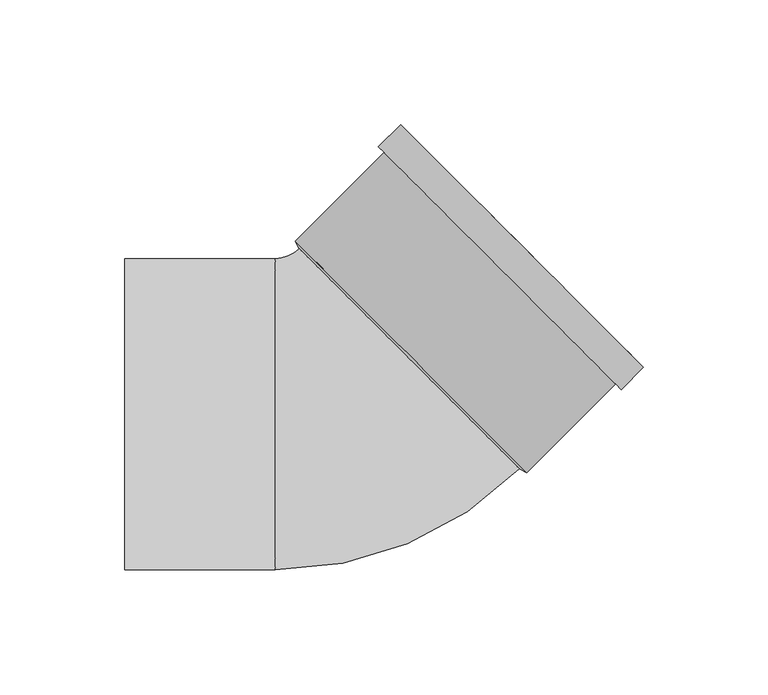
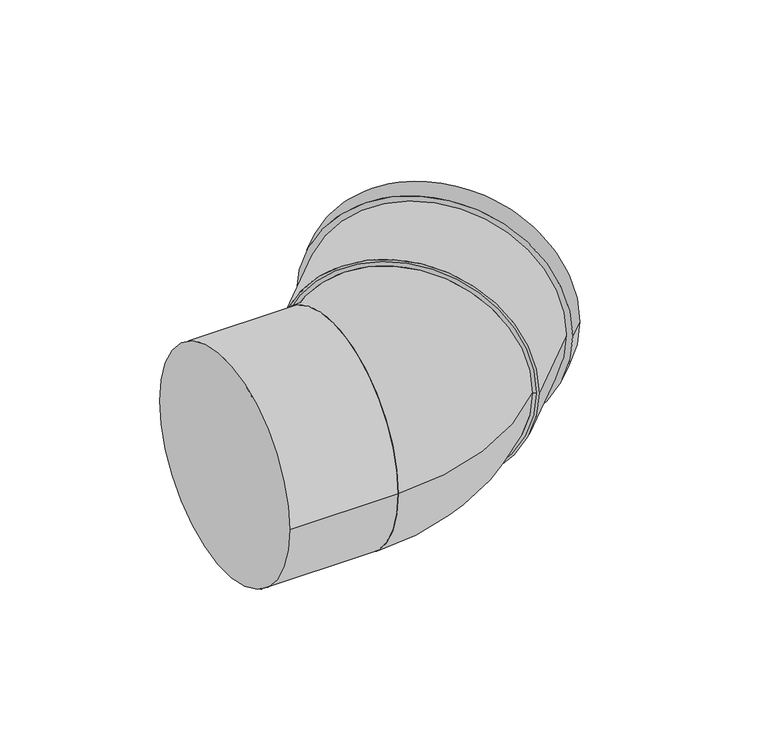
"""IFC4 building model written with IfcOpenShell, lengths in millimetres: pipe fitting geometry, Superdrain HT bend : Superdrain HT Bend."""

import ifcopenshell
import ifcopenshell.guid

model = None  # the IFC model being written
_history = None  # IfcOwnerHistory: only IFC2X3 demands one
_inside = {}  # id of a spatial element -> (the spatial element, [elements in it])
_under = {}  # id of a project, library or spatial element -> (it, [spatial elements below it])
_declared = {}  # id of a project -> (the project, [libraries it declares])
_typed = {}  # id of a type object -> (the type object, [elements of that type])
_made_of = {}  # id of a material, layer set ... -> (it, [elements and type objects made of it])


def new_model(schema):
    """Start an empty IFC model of exactly this schema.

    Asked for "IFC4X3", IfcOpenShell would pick the latest addendum, in which some entities
    have other attributes; the version numbers below select the first issue.
    IFC2X3 requires an IfcOwnerHistory on every rooted entity: one is made here for all.
    """
    global model, _history
    if schema == "IFC4X3":
        model = ifcopenshell.file(schema_version=(4, 3, 0, 0))
    else:
        model = ifcopenshell.file(schema=schema)
    _inside.clear()
    _under.clear()
    _declared.clear()
    _typed.clear()
    _made_of.clear()
    _history = None
    if model.schema == "IFC2X3":
        org = make("IfcOrganization", Name="unknown")
        user = make(
            "IfcPersonAndOrganization",
            ThePerson=make("IfcPerson", FamilyName="unknown"),
            TheOrganization=org,
        )
        app = make(
            "IfcApplication",
            ApplicationDeveloper=org,
            Version="unknown",
            ApplicationFullName="unknown",
            ApplicationIdentifier="unknown",
        )
        _history = make(
            "IfcOwnerHistory",
            OwningUser=user,
            OwningApplication=app,
            ChangeAction="ADDED",
            CreationDate=0,
        )
    return model


def make(cls, **values):
    """One entity of the class cls with the attributes given. An attribute that is None is left unset."""
    return model.create_entity(
        cls, **{name: value for name, value in values.items() if value is not None}
    )


def rooted(cls, **values):
    """An entity with a GlobalId (a new one), such as an element, a storey or a relation."""
    return make(cls, GlobalId=ifcopenshell.guid.new(), OwnerHistory=_history, **values)


def si_unit(unit_type, name, prefix=None):
    """IfcSIUnit, for example si_unit("LENGTHUNIT", "METRE", prefix="MILLI")."""
    return make("IfcSIUnit", UnitType=unit_type, Prefix=prefix, Name=name)


def assignment(units):
    """IfcUnitAssignment: the units of a project."""
    return None if units is None else make("IfcUnitAssignment", Units=units)


def point(xyz):
    """IfcCartesianPoint."""
    return None if xyz is None else make("IfcCartesianPoint", Coordinates=xyz)


def direction(xyz):
    """IfcDirection."""
    return None if xyz is None else make("IfcDirection", DirectionRatios=xyz)


def frame(location, z_axis=None, x_axis=None):
    """IfcAxis2Placement3D, a coordinate frame: its origin and axes. An axis left out is left unset."""
    return make(
        "IfcAxis2Placement3D",
        Location=point(location),
        Axis=direction(z_axis),
        RefDirection=direction(x_axis),
    )


def frame_2d(location, x_axis=None):
    """IfcAxis2Placement2D, a coordinate frame in the plane: its origin and x axis."""
    return make(
        "IfcAxis2Placement2D", Location=point(location), RefDirection=direction(x_axis)
    )


def origin():
    """The frame at (0, 0, 0) with its axes left unset."""
    return frame((0.0, 0.0, 0.0))


def origin_2d():
    """The frame at (0, 0) in the plane with its x axis left unset."""
    return frame_2d((0.0, 0.0))


def place(relative_to, where):
    """IfcLocalPlacement: puts the frame where relative to a parent placement (None: the world)."""
    return make(
        "IfcLocalPlacement", PlacementRelTo=relative_to, RelativePlacement=where
    )


def context(
    kind, dimensions, precision=None, world=None, true_north=None, identifier=None
):
    """IfcGeometricRepresentationContext, for example the 3D "Model" context."""
    return make(
        "IfcGeometricRepresentationContext",
        ContextIdentifier=identifier,
        ContextType=kind,
        CoordinateSpaceDimension=dimensions,
        Precision=precision,
        WorldCoordinateSystem=world,
        TrueNorth=true_north,
    )


def project(units=None, contexts=None):
    """IfcProject with its units and contexts."""
    return rooted(
        "IfcProject",
        Name="project",
        RepresentationContexts=contexts,
        UnitsInContext=assignment(units),
    )


def spatial(cls, under=None, at=None, **own):
    """A site, building, storey or space (cls), placed at a placement, below another one or the project."""
    s = rooted(cls, ObjectPlacement=at, **own)
    if under is not None:
        _under.setdefault(under.id(), (under, []))[1].append(s)
    return s


def polyline(points):
    """IfcPolyline through the points."""
    return make("IfcPolyline", Points=[point(p) for p in points])


def circle_curve(where, radius):
    """IfcCircle in the frame where."""
    return make("IfcCircle", Position=where, Radius=radius)


def ellipse_curve(where, semi_axis1, semi_axis2):
    """IfcEllipse in the frame where."""
    return make(
        "IfcEllipse", Position=where, SemiAxis1=semi_axis1, SemiAxis2=semi_axis2
    )


def trimmed(basis, trim1, trim2, sense, master):
    """IfcTrimmedCurve: the piece of a basis curve between two trims."""
    return make(
        "IfcTrimmedCurve",
        BasisCurve=basis,
        Trim1=trim1,
        Trim2=trim2,
        SenseAgreement=sense,
        MasterRepresentation=master,
    )


def segment(curve, same_sense, transition):
    """IfcCompositeCurveSegment."""
    return make(
        "IfcCompositeCurveSegment",
        Transition=transition,
        SameSense=same_sense,
        ParentCurve=curve,
    )


def composite_curve(segments, self_intersect=None):
    """IfcCompositeCurve: segments joined end to end."""
    return make("IfcCompositeCurve", Segments=segments, SelfIntersect=self_intersect)


def outline(outer, holes=None, kind="AREA"):
    """IfcArbitraryClosedProfileDef: a profile drawn as a closed curve; with holes, ...WithVoids."""
    if holes is None:
        return make("IfcArbitraryClosedProfileDef", ProfileType=kind, OuterCurve=outer)
    return make(
        "IfcArbitraryProfileDefWithVoids",
        ProfileType=kind,
        OuterCurve=outer,
        InnerCurves=holes,
    )


def extrude(swept, where, along, depth):
    """IfcExtrudedAreaSolid: the profile swept, set in the frame where, extruded along a direction by depth."""
    return make(
        "IfcExtrudedAreaSolid",
        SweptArea=swept,
        Position=where,
        ExtrudedDirection=direction(along),
        Depth=depth,
    )


def shape(context_of_items, identifier, shape_type, items):
    """IfcShapeRepresentation: the items that make up one representation, for example the "Body"."""
    return make(
        "IfcShapeRepresentation",
        ContextOfItems=context_of_items,
        RepresentationIdentifier=identifier,
        RepresentationType=shape_type,
        Items=items,
    )


def source(mapping_origin, context_of_items, identifier, shape_type, items):
    """IfcRepresentationMap: a shape defined once, which mapped items show again and again."""
    return make(
        "IfcRepresentationMap",
        MappingOrigin=mapping_origin,
        MappedRepresentation=shape(context_of_items, identifier, shape_type, items),
    )


def transform(
    local_origin,
    x_axis=None,
    y_axis=None,
    z_axis=None,
    scale=None,
    scale2=None,
    scale3=None,
    uniform=True,
):
    """IfcCartesianTransformationOperator3D, or its non-uniform kind. x_axis, y_axis, z_axis: its Axis1, 2, 3."""
    if uniform:
        return make(
            "IfcCartesianTransformationOperator3D",
            Axis1=direction(x_axis),
            Axis2=direction(y_axis),
            LocalOrigin=point(local_origin),
            Scale=scale,
            Axis3=direction(z_axis),
        )
    return make(
        "IfcCartesianTransformationOperator3DnonUniform",
        Axis1=direction(x_axis),
        Axis2=direction(y_axis),
        LocalOrigin=point(local_origin),
        Scale=scale,
        Axis3=direction(z_axis),
        Scale2=scale2,
        Scale3=scale3,
    )


def mapped(mapping_source, mapping_target):
    """IfcMappedItem: shows the shape of a source again, moved by a transform."""
    return make(
        "IfcMappedItem", MappingSource=mapping_source, MappingTarget=mapping_target
    )


def made_of(thing, what):
    """Note that an element or type object is made of a material, layer set ...; save() writes the relation."""
    if what is not None:
        _made_of.setdefault(what.id(), (what, []))[1].append(thing)
    return thing


def element(
    cls,
    number,
    at=None,
    inside=None,
    cuts=None,
    type_object=None,
    material=None,
    context=None,
    identifier="Body",
    shape_type=None,
    held_by="IfcProductDefinitionShape",
    body=None,
    shapes=None,
    **own,
):
    """One element of the class cls, such as IfcWall. Its Tag is "e" and its number.

    at: its placement. inside: the storey or other place that contains it. cuts: it is an
    opening in that element (IfcRelVoidsElement). A single representation is given by context,
    identifier, shape_type and body (its items); several are given by shapes. held_by: the class
    of the entity that holds the representations. save() writes the other relations.
    """
    e = rooted(cls, Tag="e%d" % number, ObjectPlacement=at, **own)
    if body is not None:
        shapes = [shape(context, identifier, shape_type, body)]
    if shapes is not None:
        e.Representation = make(held_by, Representations=shapes)
    if inside is not None:
        _inside.setdefault(inside.id(), (inside, []))[1].append(e)
    if cuts is not None:
        rooted(
            "IfcRelVoidsElement", RelatingBuildingElement=cuts, RelatedOpeningElement=e
        )
    if type_object is not None:
        _typed.setdefault(type_object.id(), (type_object, []))[1].append(e)
    return made_of(e, material)


def aggregate(whole, parts):
    """IfcRelAggregates: a whole, such as a stair, and the parts it consists of."""
    return rooted("IfcRelAggregates", RelatingObject=whole, RelatedObjects=parts)


def save(model, path):
    """Write the relations noted so far, then the file.

    IfcRelAggregates (storeys below a building ...), IfcRelContainedInSpatialStructure (elements
    in a storey), IfcRelDefinesByType, IfcRelAssociatesMaterial and IfcRelDeclares: one each for
    every whole, place, type object, material and project.
    """
    for whole, parts in _under.values():
        aggregate(whole, parts)
    for where, things in _inside.values():
        rooted(
            "IfcRelContainedInSpatialStructure",
            RelatedElements=things,
            RelatingStructure=where,
        )
    for kind, things in _typed.values():
        rooted("IfcRelDefinesByType", RelatedObjects=things, RelatingType=kind)
    for what, things in _made_of.values():
        rooted("IfcRelAssociatesMaterial", RelatedObjects=things, RelatingMaterial=what)
    for by, libraries in _declared.values():
        rooted("IfcRelDeclares", RelatingContext=by, RelatedDefinitions=libraries)
    model.write(path)


def plane_surface(at):
    """IfcPlane: the flat surface through the origin of the frame at, square to its z axis."""
    return make("IfcPlane", Position=at)


def revolved_surface(curve, axis_point, axis_direction):
    """IfcSurfaceOfRevolution: the curve turned about the line through axis_point along axis_direction."""
    return make(
        "IfcSurfaceOfRevolution",
        SweptCurve=make("IfcArbitraryOpenProfileDef", ProfileType="CURVE", Curve=curve),
        AxisPosition=make("IfcAxis1Placement", Location=point(axis_point), Axis=direction(axis_direction)),
    )


def advanced_brep(points, edges, surfaces, faces):
    """IfcAdvancedBrep: a solid bounded by faces that lie on surfaces and meet in shared edges.

    An edge is (start, end): straight between two places in points (the first is 0);
    or (start, end, curve); or (start, end, curve, False) where it runs against its curve.
    A face is (place in surfaces, loops), or (place, loops, False) where it looks against
    its surface's normal. A loop lists edges by number (the first is 1), with a minus sign
    where the edge is run from its end to its start. The first loop is the outer one.
    """
    corners = [point(p) for p in points]
    vertices = [make("IfcVertexPoint", VertexGeometry=c) for c in corners]
    made = []
    for start, end, *more in edges:
        made.append(
            make(
                "IfcEdgeCurve",
                EdgeStart=vertices[start],
                EdgeEnd=vertices[end],
                EdgeGeometry=more[0] if more else make("IfcPolyline", Points=[corners[start], corners[end]]),
                SameSense=more[1] if len(more) > 1 else True,
            )
        )
    hull = []
    for where, loops, *sense in faces:
        bounds = []
        for j, loop in enumerate(loops):
            ring = [make("IfcOrientedEdge", EdgeElement=made[abs(k) - 1], Orientation=k > 0) for k in loop]
            bounds.append(
                make(
                    "IfcFaceOuterBound" if j == 0 else "IfcFaceBound",
                    Bound=make("IfcEdgeLoop", EdgeList=ring),
                    Orientation=True,
                )
            )
        hull.append(make("IfcAdvancedFace", Bounds=bounds, FaceSurface=surfaces[where], SameSense=sense[0] if sense else True))
    return make("IfcAdvancedBrep", Outer=make("IfcClosedShell", CfsFaces=hull))


def pipe_fitting_e310fe68(model_context):
    return source(origin(), model_context, "Body", "SolidModel", [
        advanced_brep(
        [(66.4680374, -21.9203102, 0.0), (-21.9203102, 66.4680374, 0.0), (-31.5, -62.5, 0.0), (-31.5, 62.5, 0.0)],
        [
            (0, 1, circle_curve(frame((22.2738636, 22.2738636, 0.0), z_axis=(0.7071067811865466, 0.7071067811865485, 0.0), x_axis=(-0.7071067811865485, 0.7071067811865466, 0.0)), 62.5)),
            (1, 0, circle_curve(frame((22.2738636, 22.2738636, 0.0), z_axis=(0.7071067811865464, 0.7071067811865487, 0.0), x_axis=(-0.7071067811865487, 0.7071067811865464, 0.0)), 62.5)),
            (2, 3, circle_curve(frame((-31.5, 0.0, 0.0), z_axis=(-1.0, 0.0, 0.0), x_axis=(0.0, 1.0, 0.0)), 62.5)),
            (3, 2, circle_curve(frame((-31.5, 0.0, 0.0), z_axis=(-1.0, 0.0, 0.0), x_axis=(0.0, 1.0, 0.0)), 62.5)),
            (3, 1, circle_curve(frame((-31.5, 76.0477272, 0.0), z_axis=(0.0, 0.0, 1.0), x_axis=(1.0, 0.0, 0.0)), 13.5477272)),
            (0, 2, circle_curve(frame((-31.5, 76.0477272, 0.0), z_axis=(0.0, 0.0, -1.0), x_axis=(1.0, 0.0, 0.0)), 138.5477272)),
        ],
        [
            plane_surface(frame((22.2738636, 22.2738636, 0.0), z_axis=(0.7071067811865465, 0.7071067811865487, 0.0), x_axis=(0.0, 0.0, -1.0))),
            plane_surface(frame((-31.5, 0.0, 0.0), z_axis=(-1.0, 0.0, 0.0), x_axis=(0.0, 0.0, -1.0))),
            revolved_surface(trimmed(ellipse_curve(frame((44.5477272, 76.0477272, 0.0), z_axis=(0.0, -1.0, 0.0), x_axis=(-1.0, 0.0, 0.0)), 62.5, 62.5), [point((-17.9522728, 76.0477272, 0.0))], [point((107.0477272, 76.0477272, 0.0))], True, "CARTESIAN"), (-31.5, 76.0477272, 0.0), (0.0, 0.0, 1.0)),
            revolved_surface(trimmed(ellipse_curve(frame((44.5477272, 76.0477272, 0.0), z_axis=(0.0, -1.0, 0.0), x_axis=(-1.0, 0.0, 0.0)), 62.5, 62.5), [point((107.0477272, 76.0477272, 0.0))], [point((-17.9522728, 76.0477272, 0.0))], True, "CARTESIAN"), (-31.5, 76.0477272, 0.0), (0.0, 0.0, 1.0)),
        ],
        [
            (0, [[1, 2]]),
            (1, [[3, 4]]),
            (2, [[-4, 5, -1, 6]]),
            (3, [[-3, -6, -2, -5]]),
        ],
    ),
        extrude(outline(composite_curve([segment(trimmed(circle_curve(origin_2d(), 65.625), [point((0.0, 65.625))], [point((0.0, -65.625))], False, "CARTESIAN"), True, "CONTINUOUS"), segment(trimmed(circle_curve(origin_2d(), 65.625), [point((0.0, -65.625))], [point((0.0, 65.625))], False, "CARTESIAN"), True, "CONTINUOUS")], self_intersect=False), holes=[composite_curve([segment(trimmed(circle_curve(origin_2d(), 62.5), [point((0.0, 62.5))], [point((0.0, -62.5))], True, "CARTESIAN"), True, "CONTINUOUS"), segment(trimmed(circle_curve(origin_2d(), 62.5), [point((0.0, -62.5))], [point((0.0, 62.5))], True, "CARTESIAN"), True, "CONTINUOUS")], self_intersect=False)]), frame((22.9809704, 22.9809704, 0.0), z_axis=(0.707106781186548, 0.707106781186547, 0.0), x_axis=(0.0, 0.0, 1.0)), (0.0, 0.0, 1.0), 63.0),
        extrude(outline(composite_curve([segment(trimmed(circle_curve(origin_2d(), 68.90625), [point((0.0, -68.90625))], [point((0.0, 68.90625))], False, "CARTESIAN"), True, "CONTINUOUS"), segment(trimmed(circle_curve(origin_2d(), 68.90625), [point((0.0, 68.90625))], [point((0.0, -68.90625))], False, "CARTESIAN"), True, "CONTINUOUS")], self_intersect=False), holes=[composite_curve([segment(trimmed(circle_curve(origin_2d(), 62.5), [point((0.0, -62.5))], [point((0.0, 62.5))], True, "CARTESIAN"), True, "CONTINUOUS"), segment(trimmed(circle_curve(origin_2d(), 62.5), [point((0.0, 62.5))], [point((0.0, -62.5))], True, "CARTESIAN"), True, "CONTINUOUS")], self_intersect=False)]), frame((58.6191522, 58.6191522, 0.0), z_axis=(0.7071067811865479, 0.7071067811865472, 0.0), x_axis=(0.0, 0.0, 1.0)), (0.0, 0.0, 1.0), 12.6),
        advanced_brep(
        [(69.3848529, -23.4229121, 0.0), (-23.4229121, 69.3848529, 0.0), (66.4680374, -21.9203102, 0.0), (-21.9203102, 66.4680374, 0.0)],
        [
            (0, 1, circle_curve(frame((22.9809704, 22.9809704, 0.0), z_axis=(0.7071067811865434, 0.7071067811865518, 0.0), x_axis=(0.7071067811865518, -0.7071067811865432, 0.0)), 65.625)),
            (1, 0, circle_curve(frame((22.9809704, 22.9809704, 0.0), z_axis=(0.7071067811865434, 0.7071067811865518, 0.0), x_axis=(-0.7071067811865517, 0.7071067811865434, 0.0)), 65.625)),
            (2, 3, circle_curve(frame((22.2738636, 22.2738636, 0.0), z_axis=(-0.7071067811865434, -0.7071067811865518, 0.0), x_axis=(-0.7071067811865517, 0.7071067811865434, 0.0)), 62.5)),
            (3, 2, circle_curve(frame((22.2738636, 22.2738636, 0.0), z_axis=(-0.7071067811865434, -0.7071067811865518, 0.0), x_axis=(0.7071067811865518, -0.7071067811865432, 0.0)), 62.5)),
            (3, 1),
            (0, 2),
        ],
        [
            plane_surface(frame((22.9809704, 22.9809704, 0.0), z_axis=(0.7071067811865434, 0.7071067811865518, 0.0), x_axis=(0.0, 0.0, -1.0))),
            plane_surface(frame((22.2738636, 22.2738636, 0.0), z_axis=(-0.7071067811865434, -0.7071067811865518, 0.0), x_axis=(0.0, 0.0, -1.0))),
            revolved_surface(polyline([(-21.920310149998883, 66.46803734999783, 0.0), (-23.422912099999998, 69.3848529, 0.0)]), (8.131728, 8.131728, 0.0), (0.7071067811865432, 0.7071067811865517, 0.0)),
            revolved_surface(polyline([(66.46803735, -21.920310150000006, 0.0), (69.38485290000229, -23.422912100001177, 0.0)]), (8.131728, 8.131728, 0.0), (0.7071067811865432, 0.7071067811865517, 0.0)),
        ],
        [
            (0, [[1, 2]]),
            (1, [[3, 4]]),
            (2, [[-4, 5, -1, 6]]),
            (3, [[-3, -6, -2, -5]]),
        ],
    ),
        extrude(outline(composite_curve([segment(trimmed(circle_curve(origin_2d(), 62.5), [point((-62.5, 0.0))], [point((62.5, 0.0))], False, "CARTESIAN"), True, "CONTINUOUS"), segment(trimmed(circle_curve(origin_2d(), 62.5), [point((62.5, 0.0))], [point((-62.5, 0.0))], False, "CARTESIAN"), True, "CONTINUOUS")], self_intersect=False)), frame((-92.0, 0.0, 0.0), z_axis=(1.0, 0.0, 0.0), x_axis=(0.0, 1.0, 0.0)), (0.0, 0.0, 1.0), 60.5),
    ])


if __name__ == "__main__":
    model = new_model("IFC4")
    model_context = context("Model", 3, world=origin())
    ifc_project = project(units=[si_unit("LENGTHUNIT", "METRE", prefix="MILLI")], contexts=[model_context])
    site = spatial("IfcSite", under=ifc_project)
    building = spatial("IfcBuilding", under=site)
    placement = place(None, origin())
    pipe_fitting_shape = pipe_fitting_e310fe68(model_context)
    element("IfcPipeFitting", 1, ObjectType="Superdrain HT bend : Superdrain HT Bend", at=placement, inside=building, context=model_context, shape_type="MappedRepresentation", body=[
        mapped(pipe_fitting_shape, transform((0.0, 0.0, 0.0), x_axis=(1.0, 0.0, 0.0), y_axis=(0.0, 1.0, 0.0), z_axis=(0.0, 0.0, 1.0))),
    ])
    save(model, "model.ifc")
